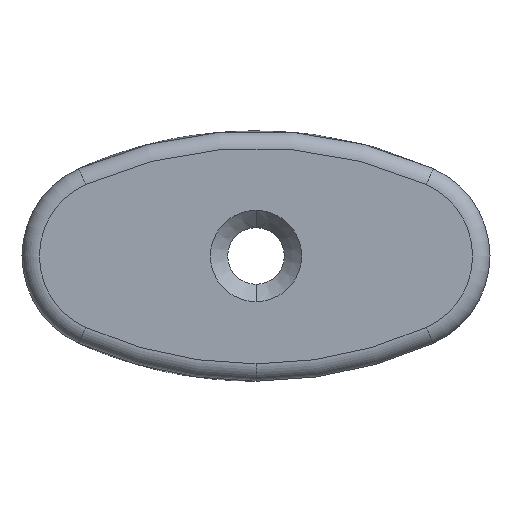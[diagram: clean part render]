
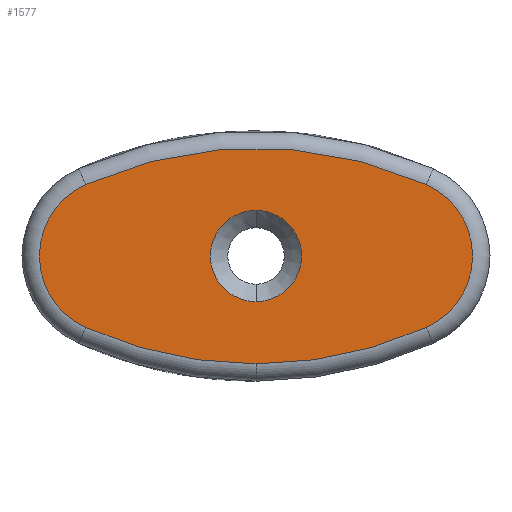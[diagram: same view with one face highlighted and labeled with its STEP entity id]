
A CAD part, front view. The second image highlights one B-rep face of the part: STEP entity #1577.
In plain terms, the highlighted planar face has unit normal (0, -1, 0).
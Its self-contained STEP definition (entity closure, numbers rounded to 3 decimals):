
#12 = CIRCLE ( 'NONE', #1778, 2.625 ) ;
#24 = DIRECTION ( 'NONE',  ( 0., 0., -1. ) ) ;
#51 = DIRECTION ( 'NONE',  ( 0., -1., 0. ) ) ;
#62 = CARTESIAN_POINT ( 'NONE',  ( 0., 0., 17.739 ) ) ;
#88 = CARTESIAN_POINT ( 'NONE',  ( 9.79, 0., -4.106 ) ) ;
#101 = DIRECTION ( 'NONE',  ( 0., 0., -1. ) ) ;
#121 = DIRECTION ( 'NONE',  ( 0., -1., 0. ) ) ;
#131 = EDGE_CURVE ( 'NONE', #1132, #688, #1569, .T. ) ;
#272 = FACE_BOUND ( 'NONE', #616, .T. ) ;
#278 = CARTESIAN_POINT ( 'NONE',  ( 3.975, 0., 8.869 ) ) ;
#314 = VERTEX_POINT ( 'NONE', #885 ) ;
#338 = EDGE_LOOP ( 'NONE', ( #719, #1857, #1074, #684, #539 ) ) ;
#408 = DIRECTION ( 'NONE',  ( 0., 1., 0. ) ) ;
#419 = CARTESIAN_POINT ( 'NONE',  ( 7.95, 0., 0. ) ) ;
#442 = CARTESIAN_POINT ( 'NONE',  ( 0., 0., -2.625 ) ) ;
#451 = EDGE_CURVE ( 'NONE', #545, #770, #12, .T. ) ;
#520 = CARTESIAN_POINT ( 'NONE',  ( 0., 0., -6.2 ) ) ;
#528 = CARTESIAN_POINT ( 'NONE',  ( -9.79, 0., 4.106 ) ) ;
#539 = ORIENTED_EDGE ( 'NONE', *, *, #1036, .T. ) ;
#545 = VERTEX_POINT ( 'NONE', #1792 ) ;
#616 = EDGE_LOOP ( 'NONE', ( #1481, #657 ) ) ;
#618 = VERTEX_POINT ( 'NONE', #520 ) ;
#629 = AXIS2_PLACEMENT_3D ( 'NONE', #1823, #1545, #1867 ) ;
#656 = AXIS2_PLACEMENT_3D ( 'NONE', #681, #1111, #101 ) ;
#657 = ORIENTED_EDGE ( 'NONE', *, *, #451, .T. ) ;
#670 = VERTEX_POINT ( 'NONE', #88 ) ;
#681 = CARTESIAN_POINT ( 'NONE',  ( 0., 0., -17.739 ) ) ;
#684 = ORIENTED_EDGE ( 'NONE', *, *, #1381, .T. ) ;
#688 = VERTEX_POINT ( 'NONE', #528 ) ;
#689 = DIRECTION ( 'NONE',  ( 0., 0., -1. ) ) ;
#694 = EDGE_CURVE ( 'NONE', #688, #314, #1017, .T. ) ;
#709 = CARTESIAN_POINT ( 'NONE',  ( 9.79, 0., 4.106 ) ) ;
#719 = ORIENTED_EDGE ( 'NONE', *, *, #131, .T. ) ;
#724 = CIRCLE ( 'NONE', #1304, 23.939 ) ;
#770 = VERTEX_POINT ( 'NONE', #442 ) ;
#784 = CIRCLE ( 'NONE', #1850, 2.625 ) ;
#827 = FACE_OUTER_BOUND ( 'NONE', #338, .T. ) ;
#845 = CARTESIAN_POINT ( 'NONE',  ( 0., 0., 17.739 ) ) ;
#853 = DIRECTION ( 'NONE',  ( 0., -1., 0. ) ) ;
#861 = DIRECTION ( 'NONE',  ( 0., 0., -1. ) ) ;
#877 = EDGE_CURVE ( 'NONE', #770, #545, #784, .T. ) ;
#885 = CARTESIAN_POINT ( 'NONE',  ( -9.79, 0., -4.106 ) ) ;
#907 = AXIS2_PLACEMENT_3D ( 'NONE', #419, #121, #1856 ) ;
#1017 = CIRCLE ( 'NONE', #629, 4.5 ) ;
#1033 = EDGE_CURVE ( 'NONE', #314, #618, #1717, .T. ) ;
#1036 = EDGE_CURVE ( 'NONE', #670, #1132, #1689, .T. ) ;
#1074 = ORIENTED_EDGE ( 'NONE', *, *, #1033, .T. ) ;
#1111 = DIRECTION ( 'NONE',  ( 0., -1., 0. ) ) ;
#1112 = DIRECTION ( 'NONE',  ( 0., 1., 0. ) ) ;
#1132 = VERTEX_POINT ( 'NONE', #709 ) ;
#1135 = DIRECTION ( 'NONE',  ( 0., 0., -1. ) ) ;
#1285 = DIRECTION ( 'NONE',  ( 0., -1., 0. ) ) ;
#1304 = AXIS2_PLACEMENT_3D ( 'NONE', #62, #51, #1828 ) ;
#1381 = EDGE_CURVE ( 'NONE', #618, #670, #724, .T. ) ;
#1432 = PLANE ( 'NONE',  #1451 ) ;
#1451 = AXIS2_PLACEMENT_3D ( 'NONE', #278, #853, #689 ) ;
#1481 = ORIENTED_EDGE ( 'NONE', *, *, #877, .T. ) ;
#1482 = CARTESIAN_POINT ( 'NONE',  ( 0., 0., 0. ) ) ;
#1545 = DIRECTION ( 'NONE',  ( 0., -1., 0. ) ) ;
#1565 = CARTESIAN_POINT ( 'NONE',  ( 0., 0., 0. ) ) ;
#1569 = CIRCLE ( 'NONE', #656, 23.939 ) ;
#1577 = ADVANCED_FACE ( 'NONE', ( #272, #827 ), #1432, .T. ) ;
#1689 = CIRCLE ( 'NONE', #907, 4.5 ) ;
#1717 = CIRCLE ( 'NONE', #1880, 23.939 ) ;
#1778 = AXIS2_PLACEMENT_3D ( 'NONE', #1565, #408, #1135 ) ;
#1792 = CARTESIAN_POINT ( 'NONE',  ( 0., 0., 2.625 ) ) ;
#1823 = CARTESIAN_POINT ( 'NONE',  ( -7.95, 0., 0. ) ) ;
#1828 = DIRECTION ( 'NONE',  ( 0., 0., -1. ) ) ;
#1850 = AXIS2_PLACEMENT_3D ( 'NONE', #1482, #1112, #24 ) ;
#1856 = DIRECTION ( 'NONE',  ( 0., 0., -1. ) ) ;
#1857 = ORIENTED_EDGE ( 'NONE', *, *, #694, .T. ) ;
#1867 = DIRECTION ( 'NONE',  ( 0., 0., -1. ) ) ;
#1880 = AXIS2_PLACEMENT_3D ( 'NONE', #845, #1285, #861 ) ;
